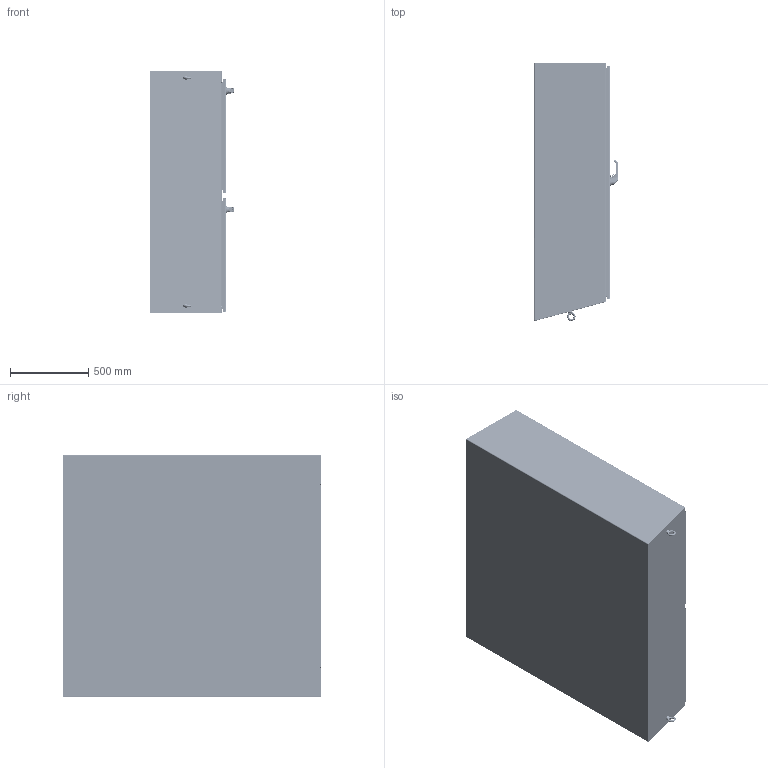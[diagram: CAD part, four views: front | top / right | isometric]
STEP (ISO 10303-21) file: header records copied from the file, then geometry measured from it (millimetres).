
FILE_DESCRIPTION((''),'2;1');
FILE_NAME('MODEL-138_ASM','2026-02-27T11:29:53',('johnh'),('SAGINAW CONTROL & ENGINEERING'),'CREO PARAMETRIC BY PTC INC, 2021284','CREO PARAMETRIC BY PTC INC, 2021284','');
FILE_SCHEMA(('AUTOMOTIVE_DESIGN { 1 0 10303 214 1 1 1 1 }'));
Length unit declared in the file: inch
Products named in the file (103): MODEL-138-BTM; MODEL-138-RS; MODEL-138-LS; MODEL-138-BCK; MODEL-138-TP; MODEL-138-MN-DR; 100837; 111267; 100882; 126935_HANDLE; 126935_HANDLE_INSERT; 126935_SHAFT_CAM; 126935_ADAPTER_CAM; 126935_NUT_CAM; 126935_BASE; 126935_PADLOCK_CATCH; 126935_SCREW_SMALL; 126935_NUT_MOUNTING_SMALL; 126935_NUT_MOUNTING_LARGE; 126935_ASM; 102237; 100030; 102237_ASM; MODEL-138-ROD-UPR-MD; 128146; 128145; 128144; 102482; MODEL-138-ROD-UPR-MD_ASM; 128143; 112504; MODEL-138-ROD-LWR-MD; MODEL-138-ROD-LWR-MD_ASM; MODEL-138-PR-GSKT-MD; 128258; 128258_ASM; 126395; 102483; 101383; 101383-STUD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
Assembly tree (232 placements, depth 4):
  MODEL-138_ASM
    MODEL-138-BTM
    MODEL-138-RS
    MODEL-138-LS
    MODEL-138-BCK
    MODEL-138-TP
    MODEL-138-M-DOOR-ASSY_ASM
      MODEL-138-MN-DR
      100837  x7
      111267
      100882  x12
      126935_ASM
        126935_HANDLE
        126935_HANDLE_INSERT
        126935_SHAFT_CAM
        126935_ADAPTER_CAM
        126935_NUT_CAM
        126935_BASE
        126935_PADLOCK_CATCH
        126935_SCREW_SMALL
        126935_NUT_MOUNTING_SMALL
        126935_NUT_MOUNTING_LARGE
      102237_ASM
        102237
        100030  x2
      MODEL-138-ROD-UPR-MD_ASM
        MODEL-138-ROD-UPR-MD
        128146
        128145
        128144
        102482  x2
      128143  x2
      112504  x2
      MODEL-138-ROD-LWR-MD_ASM
        MODEL-138-ROD-LWR-MD
        128146
        128145
        128144
        102482  x2
      MODEL-138-PR-GSKT-MD
      128258_ASM  x4
        128258
      126395  x4
      102483  x4
      101383_ASM  x4
        101383
        101383-STUD
      101221  x4
    MODEL-138-S-DOOR-ASSY_ASM
      MODEL-138-SEC-DR
      100837  x3
      126937_ASM
        126937_HANDLE
        126937_HANDLE_INSERT
        126937_SHAFT_CAM
        126937_ADAPTER_CAM
        126937_NUT_CAM
        126937_BASE
        126937_PADLOCK_CATCH
        126937_SCREW_SMALL
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Bounding box: 534.57 x 1645.42 x 1549.4 mm (x, y, z)
Volume: 32036596.4 mm3; surface area: 22961365.3 mm2
Topology: 262 solids, 262 shells, 22717 faces, 58218 edges, 36100 vertices
Faces by surface type: plane 7807, cylinder 6138, bspline 4861, torus 1651, cone 1243, sphere 696, extrusion 321
Entity records: 594253 total; most frequent: CARTESIAN_POINT 244729, ORIENTED_EDGE 51778, DIRECTION 48640, PRESENTATION_STYLE_ASSIGNMENT 27613, STYLED_ITEM 26853, EDGE_CURVE 25889, CURVE_STYLE 25841, AXIS2_PLACEMENT_3D 18140
